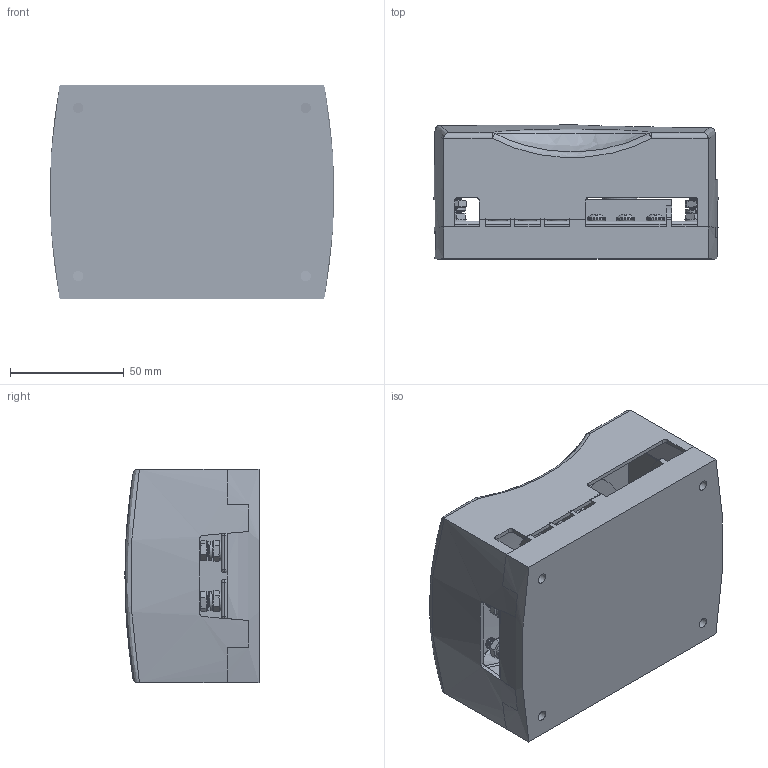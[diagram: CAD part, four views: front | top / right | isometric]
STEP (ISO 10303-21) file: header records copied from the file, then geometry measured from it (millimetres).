
FILE_DESCRIPTION(/* description */ (''),/* implementation_level */ '2;1');
FILE_NAME(/* name */ 'C:\Users\Hani\Desktop\work\BLR-406-G\BLR-406-G.stp',/* time_stamp */ '2021-07-09T12:15:59-07:00',/* author */ ('Hani'),/* organization */ (''),/* preprocessor_version */ 'ST-DEVELOPER v17',/* originating_system */ 'Autodesk Inventor 2019',/* authorisation */ '');
FILE_SCHEMA (('AUTOMOTIVE_DESIGN { 1 0 10303 214 3 1 1 }'));
Products named in the file (17): BLR-406-G; BLR-406-G-Base; M4 PHILLIPS MACHINE SCREW; STUD; LOCK WASHER; WASHER; HEX NUT; STUD_CPY; LOCK WASHER_CPY; WASHER_CPY; HEX NUT_CPY; STUD_CPY_MIR; LOCK WASHER_CPY_MIR; WASHER_CPY_MIR; HEX NUT_CPY_MIR; BLR-406-G-Cover; Push-down-Button
Assembly tree (30 placements, depth 2):
  BLR-406-G
    BLR-406-G-Base
    M4 PHILLIPS MACHINE SCREW  x12
    STUD
    LOCK WASHER
    WASHER
    HEX NUT  x2
    STUD_CPY
    LOCK WASHER_CPY
    WASHER_CPY
    HEX NUT_CPY  x2
    STUD_CPY_MIR
    LOCK WASHER_CPY_MIR
    WASHER_CPY_MIR
    HEX NUT_CPY_MIR  x2
    BLR-406-G-Cover
    Push-down-Button
Bounding box: 124.89 x 58.93 x 93.98 mm (x, y, z)
Volume: 286121.3 mm3; surface area: 104290.4 mm2
Topology: 30 solids, 30 shells, 2023 faces, 5434 edges, 3531 vertices
Faces by surface type: plane 830, cylinder 591, cone 281, bspline 211, torus 84, sphere 26
Full cylindrical faces by diameter (mm): 3.091 x84, 3.251 x12, 3.769 x48, 3.795 x6, 4 x84, 4.14 x3, 4.496 x4, 4.801 x51, 4.826 x18, 4.953 x3, 5.08 x1, 8 x12, 8.992 x3, 9.068 x4, 9.982 x1, 14.961 x1, 29.972 x1, 30.48 x1, 34.036 x1
Entity records: 59123 total; most frequent: CARTESIAN_POINT 25527, ORIENTED_EDGE 7296, DIRECTION 6395, EDGE_CURVE 3648, VERTEX_POINT 2359, AXIS2_PLACEMENT_3D 2278, LINE 1839, VECTOR 1839
